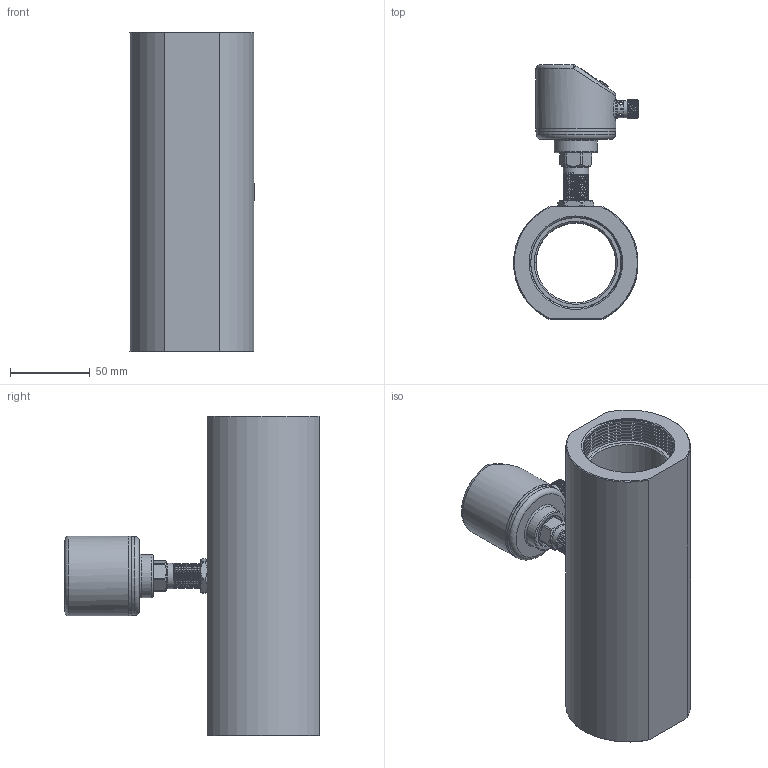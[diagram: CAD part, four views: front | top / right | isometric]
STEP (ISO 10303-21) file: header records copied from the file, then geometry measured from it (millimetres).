
FILE_DESCRIPTION (( 'STEP AP214' ), '1' );
FILE_NAME ('DN50囀杅珆.STEP', '2025-03-05T01:23:16', ( '' ), ( '' ), 'SwSTEP 2.0', 'SolidWorks 2020', '' );
FILE_SCHEMA (( 'AUTOMOTIVE_DESIGN' ));
Length unit declared in the file: millimetre
Products named in the file (10): 偌瑩簽; 滅阨諉芛褲极1; 揤薯奻裔; PVC躇猾菜; DN50囀蹟恇; 恦謫抻芛5; 抻芛俋蹟恇G1-4; 蹟譫1; 揤薯珆尨欶; DN50囀杅珆
Assembly tree (11 placements, depth 2):
  DN50囀杅珆
    揤薯奻裔
    揤薯珆尨欶
    滅阨諉芛褲极1
    偌瑩簽  x3
    PVC躇猾菜
    抻芛俋蹟恇G1-4
    恦謫抻芛5
    蹟譫1
    DN50囀蹟恇
Bounding box: 77.86 x 159 x 200 mm (x, y, z)
Volume: 533741.3 mm3; surface area: 121092.6 mm2
Topology: 11 solids, 11 shells, 450 faces, 1090 edges, 717 vertices
Faces by surface type: cylinder 186, plane 160, cone 69, bspline 19, torus 12, sphere 4
Full cylindrical faces by diameter (mm): 1 x4, 1.2 x3, 1.8 x1, 2 x5, 2.5 x7, 2.8 x1, 4.3 x3, 4.5 x6, 7 x15, 7.2 x1, 8.5 x1, 9.75 x1, 10.5 x1, 10.7 x1, 10.8 x1, 10.9 x1, 11 x2, 12 x1, 14 x9, 14.3 x1, 14.4 x1, 14.8 x1, 16 x29, 17.34 x2, 17.4 x1, 21.24 x1, 21.3 x1, 24 x1, 27 x1, 35 x1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
Entity records: 23342 total; most frequent: CARTESIAN_POINT 15123, DIRECTION 1605, ORIENTED_EDGE 1384, EDGE_CURVE 692, AXIS2_PLACEMENT_3D 660, EDGE_LOOP 561, VERTEX_POINT 509, FACE_OUTER_BOUND 433
